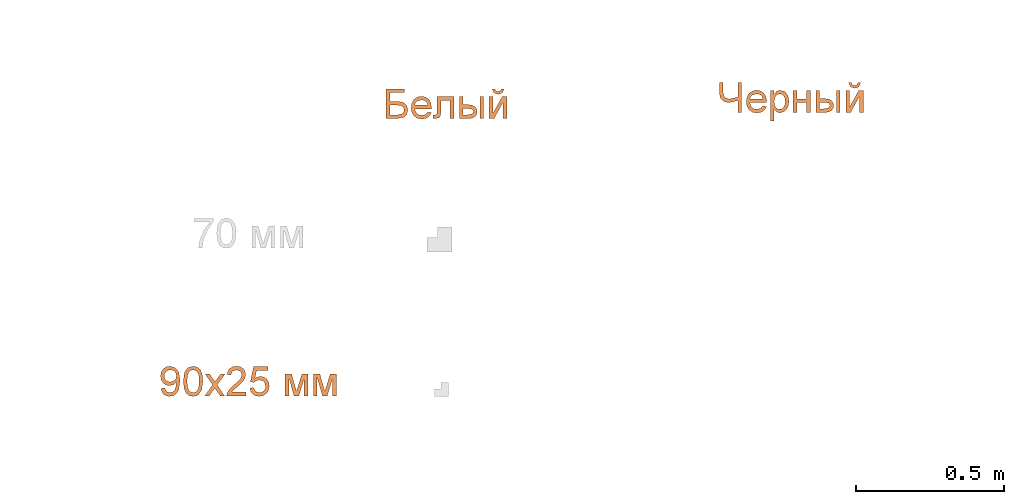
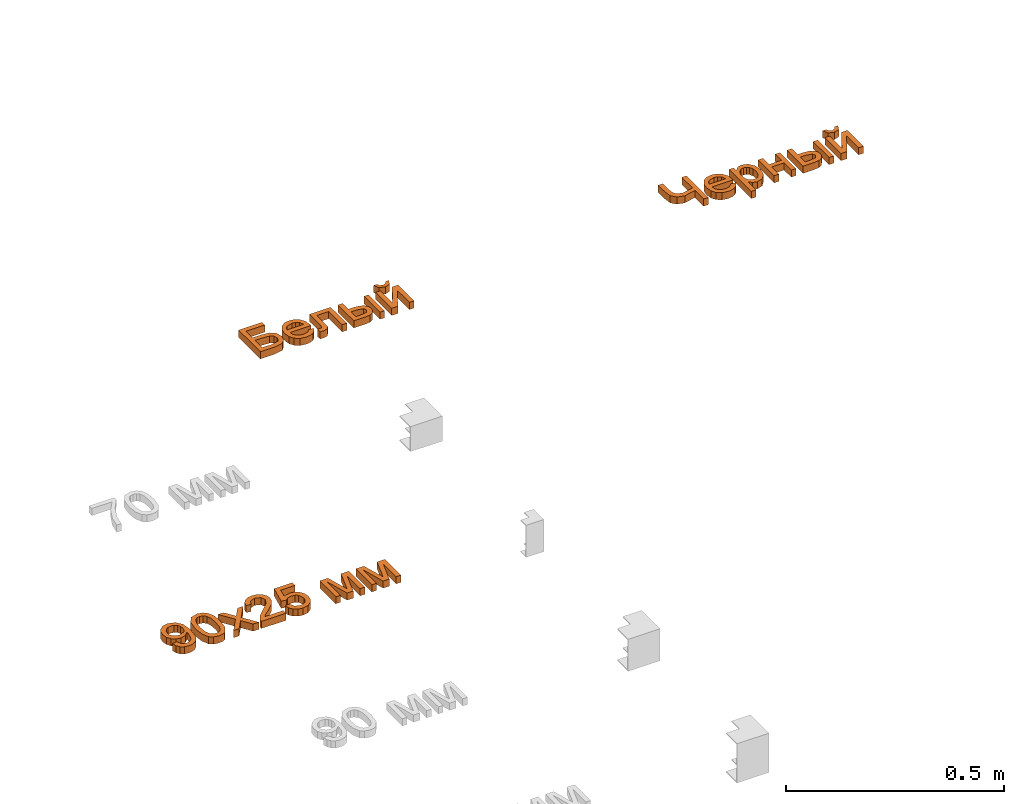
# One storey, part 41 of 87: 3 proxies.
"""IFC2X3 building model written with IfcOpenShell, lengths in millimetres."""

from ifc_helpers import new_model, entity, si_unit, converted_unit, derived_unit, direction, frame, frame_2d, origin, place, context, subcontext, project, spatial, polyline, rectangle, outline, extrude, element, save


model = new_model("IFC2X3")

# Units and contexts
model_context = context("Model", 3, precision=0.01, world=origin(), true_north=direction((6.12303176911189e-17, 1.0)))
body_context = subcontext(model_context, "Body", "Model", "MODEL_VIEW")
ifc_project = project(units=[si_unit("LENGTHUNIT", "METRE", prefix="MILLI"), si_unit("AREAUNIT", "SQUARE_METRE"), si_unit("VOLUMEUNIT", "CUBIC_METRE"), converted_unit("PLANEANGLEUNIT", "DEGREE", entity("IfcRatioMeasure", 0.0174532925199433), si_unit("PLANEANGLEUNIT", "RADIAN"), dimensions=[0, 0, 0, 0, 0, 0, 0]), si_unit("MASSUNIT", "GRAM", prefix="KILO"), derived_unit("MASSDENSITYUNIT", [(si_unit("MASSUNIT", "GRAM", prefix="KILO"), 1), (si_unit("LENGTHUNIT", "METRE"), -3)]), si_unit("TIMEUNIT", "SECOND"), si_unit("FREQUENCYUNIT", "HERTZ"), si_unit("THERMODYNAMICTEMPERATUREUNIT", "DEGREE_CELSIUS"), derived_unit("THERMALTRANSMITTANCEUNIT", [(si_unit("MASSUNIT", "GRAM", prefix="KILO"), 1), (si_unit("THERMODYNAMICTEMPERATUREUNIT", "KELVIN"), -1), (si_unit("TIMEUNIT", "SECOND"), -3)]), derived_unit("VOLUMETRICFLOWRATEUNIT", [(si_unit("LENGTHUNIT", "METRE"), 3), (si_unit("TIMEUNIT", "SECOND"), -1)]), si_unit("ELECTRICCURRENTUNIT", "AMPERE"), si_unit("ELECTRICVOLTAGEUNIT", "VOLT"), si_unit("POWERUNIT", "WATT"), si_unit("FORCEUNIT", "NEWTON", prefix="KILO"), si_unit("ILLUMINANCEUNIT", "LUX"), si_unit("LUMINOUSFLUXUNIT", "LUMEN"), si_unit("LUMINOUSINTENSITYUNIT", "CANDELA"), derived_unit("USERDEFINED", [(si_unit("MASSUNIT", "GRAM", prefix="KILO"), -1), (si_unit("LENGTHUNIT", "METRE"), -2), (si_unit("TIMEUNIT", "SECOND"), 3), (si_unit("LUMINOUSFLUXUNIT", "LUMEN"), 1)]), derived_unit("LINEARVELOCITYUNIT", [(si_unit("LENGTHUNIT", "METRE"), 1), (si_unit("TIMEUNIT", "SECOND"), -1)]), si_unit("PRESSUREUNIT", "PASCAL"), derived_unit("USERDEFINED", [(si_unit("LENGTHUNIT", "METRE"), -2), (si_unit("MASSUNIT", "GRAM", prefix="KILO"), 1), (si_unit("TIMEUNIT", "SECOND"), -2)])], contexts=[model_context])

# Site, building, storey
site_placement = place(None, origin())
site = spatial("IfcSite", under=ifc_project, at=site_placement, Name="Default", CompositionType="ELEMENT")
building_placement = place(site_placement, origin())
building = spatial("IfcBuilding", under=site, at=building_placement, Name="Наименование здания", CompositionType="ELEMENT")
storey_placement = place(building_placement, origin())
storey = spatial("IfcBuildingStorey", under=building, at=storey_placement, Name="Этаж 01", CompositionType="ELEMENT", Elevation=0.0)

# Proxies
proxy_1_placement = place(storey_placement, origin())
element("IfcBuildingElementProxy", 1, at=proxy_1_placement, inside=storey, Name="Текст модели:100 мм Arial", ObjectType="Текст модели:100 мм Arial", context=body_context, shape_type="SweptSolid", body=[
    extrude(outline(polyline([(5.58296908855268, -31.7859506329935), (17.2387167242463, -31.7859506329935), (26.9216142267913, -28.1739915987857), (34.2072820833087, -21.2554963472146), (38.6713407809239, -11.3358876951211), (39.9245387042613, -0.903731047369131), (37.9450282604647, 8.926618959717), (32.7793953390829, 17.819024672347), (24.4742258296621, 25.4373484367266), (-3.90517077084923, 37.3659164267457), (-32.1440557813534, 40.5619140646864), (-49.7769073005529, 32.5319597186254), (-59.4683269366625, 16.6032994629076), (-60.4499889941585, 4.02951589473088), (-56.4016296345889, -7.53444362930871), (-47.8362588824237, -16.8026666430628), (-35.266886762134, -22.4892406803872), (-21.9841856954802, -23.822277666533), (-10.3310965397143, -20.2832716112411), (-1.4010632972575, -12.804799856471), (3.71247002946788, -2.31943974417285), (3.73902096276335, 11.9281903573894), (-2.85997612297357, 24.0883984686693), (-0.471643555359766, 23.5260231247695), (13.133413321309, 18.0099957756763), (22.6158894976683, 11.2224941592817), (27.0079821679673, 2.9145290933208), (26.6924060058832, -7.52395807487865), (20.3410079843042, -16.8945474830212), (7.30988926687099, -19.2495752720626), (5.58296908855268, -31.7859506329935)]), holes=[polyline([(-21.7672208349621, 29.1433710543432), (-13.9803799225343, 25.5922442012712), (-8.91107638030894, 19.8291378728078), (-7.47464573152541, 4.45415101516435), (-10.9717321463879, -3.43916536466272), (-16.5473789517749, -8.73312215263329), (-23.5758136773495, -11.1761402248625), (-31.4312638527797, -10.5166404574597), (-39.4119601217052, -6.85973803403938), (-44.9206699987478, -0.817312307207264), (-47.5297596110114, 6.83624740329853), (-46.8115950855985, 15.3265517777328), (-43.3781823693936, 22.7799280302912), (-37.7148363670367, 27.7965691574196), (-30.338776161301, 30.032406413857), (-21.7672208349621, 29.1433710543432)])]), frame((12120.666226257, -9484.31998894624, 0.0), z_axis=(0.0, 0.0, 1.0), x_axis=(0.258284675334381, -0.966068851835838, 0.0)), (0.0, 0.0, 1.0), 20.0),
    extrude(outline(polyline([(-7.02884310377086, -33.3490673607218), (17.5323805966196, -33.3490673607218), (35.1984171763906, -27.6137612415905), (43.343984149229, -18.4876517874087), (47.0516941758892, -5.75150665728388), (46.7162020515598, 4.48638208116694), (43.4465778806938, 13.0955287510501), (27.944430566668, 25.665911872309), (-0.314338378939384, 32.2325535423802), (-24.0296505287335, 32.3678288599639), (-39.414302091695, 28.0260881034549), (-49.7293680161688, 18.9002174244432), (-54.4436715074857, 4.6399887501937), (-50.8676582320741, -14.1301059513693), (-35.405854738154, -26.7333390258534), (-7.02884310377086, -33.3490673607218)]), holes=[polyline([(-5.77428774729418, -20.8548320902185), (-25.0157644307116, -17.3562860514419), (-36.7257089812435, -11.5717922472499), (-41.0962588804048, -4.77599682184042), (-41.9669219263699, 3.21464792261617), (-39.2244253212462, 11.2791292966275), (-32.8654063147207, 17.2229259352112), (-20.9698370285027, 20.2947501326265), (-1.61768958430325, 19.7433141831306), (17.8514140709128, 16.2707701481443), (28.7803640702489, 10.714159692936), (33.5546988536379, 3.61815959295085), (34.5599568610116, -4.4725533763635), (31.9421230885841, -12.1923199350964), (25.8471825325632, -18.1754808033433), (14.025067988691, -21.402747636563), (-5.77428774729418, -20.8548320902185)])]), frame((12200.6345749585, -9477.21424601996, 0.0), z_axis=(0.0, 0.0, 1.0), x_axis=(0.1018515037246, -0.994799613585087, 0.0)), (0.0, 0.0, 1.0), 20.0),
    extrude(outline(polyline([(-34.530221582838, -38.4265006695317), (-19.422534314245, -38.4265006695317), (-0.341721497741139, -12.0616243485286), (2.47870713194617, -16.1328517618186), (17.8561745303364, -38.4265006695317), (32.9638617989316, -38.4265006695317), (7.40832586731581, -1.34399555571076), (33.944880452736, 35.3461020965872), (18.8371931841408, 35.3461020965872), (4.95577923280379, 16.1671874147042), (0.0261604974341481, 9.34910777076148), (-5.66374769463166, 17.6877663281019), (-17.8529044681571, 35.3461020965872), (-32.9605917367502, 35.3461020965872), (-7.6993614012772, -1.34399555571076), (-34.530221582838, -38.4265006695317)])), frame((12273.476231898, -9484.61092229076, 0.0)), (0.0, 0.0, 1.0), 20.0),
    extrude(outline(polyline([(-32.3858783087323, -45.1669477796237), (-32.3858783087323, -57.7239865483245), (33.5385752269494, -57.7239865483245), (32.1896745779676, -49.0664969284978), (24.5622545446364, -35.7369059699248), (8.84143061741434, -21.1810416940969), (-12.8390816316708, -0.260818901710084), (-18.2592096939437, 13.9639515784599), (-13.1456499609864, 25.4786580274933), (0.208466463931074, 30.1752848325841), (14.1266686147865, 25.5890226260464), (19.4119066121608, 12.9093565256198), (31.9689453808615, 14.4789863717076), (28.9247218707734, 26.6252235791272), (22.3426998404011, 35.4973110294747), (12.5662358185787, 40.9235704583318), (-0.0613136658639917, 42.7323236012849), (-12.7808336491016, 40.721235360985), (-22.5389035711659, 34.6879706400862), (-28.7469122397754, 25.6748617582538), (-30.8162484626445, 14.7242410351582), (-28.5844310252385, 2.81712712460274), (-21.1654774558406, -9.49465698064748), (-3.17604789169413, -26.6992716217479), (11.2694517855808, -38.7780637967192), (16.9348345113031, -45.1669477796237), (-32.3858783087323, -45.1669477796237)])), frame((12346.2571883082, -9465.31343641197, 0.0), z_axis=(0.0, 0.0, -1.0), x_axis=(-1.0, 0.0, 0.0)), (0.0, 0.0, -1.0), 20.0),
    extrude(outline(polyline([(3.81439562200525, -37.2548959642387), (15.732394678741, -37.2548959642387), (26.1588137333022, -33.0579698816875), (34.2921694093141, -25.0537205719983), (39.3309783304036, -13.6317508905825), (40.2219288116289, 1.43409098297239), (34.3991305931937, 14.6815107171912), (25.5350217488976, 23.1481891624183), (13.9054384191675, 28.2770976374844), (0.912111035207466, 29.4702838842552), (-10.7159258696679, 25.7768606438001), (-19.7427074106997, 18.0989984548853), (-24.9322687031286, 7.33886785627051), (-25.5937300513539, -2.21124798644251), (-22.6370240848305, -12.2793380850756), (-47.9924930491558, 0.0204883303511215), (-38.0977082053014, 37.232406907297), (-50.2330599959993, 40.4592412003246), (-62.7370428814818, -6.5652469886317), (-15.5021967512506, -30.4943712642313), (-10.7584434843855, -18.7623737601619), (-14.4216298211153, -10.4922324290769), (-13.6981616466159, 0.722667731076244), (-9.98738154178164, 9.35727561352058), (-4.32553373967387, 14.6878856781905), (11.4370636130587, 15.9400687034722), (19.7481682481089, 12.2772427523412), (25.4355726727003, 6.40632241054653), (28.0665145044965, -1.27212018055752), (27.208231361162, -10.3575128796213), (19.6530635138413, -21.9256319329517), (5.52431094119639, -24.7161898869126), (3.81439562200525, -37.2548959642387)])), frame((12426.2237167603, -9483.09386891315, 0.0), z_axis=(0.0, 0.0, 1.0), x_axis=(0.256974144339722, -0.966418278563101, 0.0)), (0.0, 0.0, 1.0), 20.0),
    extrude(outline(polyline([(-40.5839870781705, -38.4502715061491), (33.1886156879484, -38.4502715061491), (33.1886156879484, -25.8932327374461), (-29.0570178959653, -25.8932327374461), (33.1886156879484, -8.62730443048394), (33.1886156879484, 7.8538089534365), (-26.2120637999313, 25.9045521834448), (33.1886156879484, 25.9045521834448), (33.1886156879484, 38.4615909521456), (-40.5839870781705, 38.4615909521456), (-40.5839870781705, 17.7620973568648), (18.4733358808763, -0.19054400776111), (-40.5839870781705, -16.8433356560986), (-40.5839870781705, -38.4502715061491)])), frame((12548.9422451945, -9489.84880727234, 0.0), z_axis=(0.0, 0.0, 1.0), x_axis=(0.0, -1.0, 0.0)), (0.0, 0.0, 1.0), 20.0),
    extrude(outline(polyline([(-40.5839870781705, -38.4502715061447), (33.1886156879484, -38.4502715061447), (33.1886156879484, -25.893232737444), (-29.0570178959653, -25.893232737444), (33.1886156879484, -8.6273044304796), (33.1886156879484, 7.85380895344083), (-26.2120637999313, 25.9045521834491), (33.1886156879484, 25.9045521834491), (33.1886156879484, 38.4615909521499), (-40.5839870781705, 38.4615909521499), (-40.5839870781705, 17.7620973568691), (18.4733358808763, -0.190544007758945), (-40.5839870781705, -16.8433356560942), (-40.5839870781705, -38.4502715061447)])), frame((12644.6896658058, -9489.84880727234, 0.0), z_axis=(0.0, 0.0, 1.0), x_axis=(0.0, -1.0, 0.0)), (0.0, 0.0, 1.0), 20.0),
])
proxy_2_placement = place(storey_placement, origin())
element("IfcBuildingElementProxy", 2, at=proxy_2_placement, inside=storey, Name="Текст модели:100 мм Arial", ObjectType="Текст модели:100 мм Arial", context=body_context, shape_type="SweptSolid", body=[
    extrude(outline(polyline([(-50.9950475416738, -42.7620371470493), (49.4612626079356, -42.7620371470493), (49.4612626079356, -4.42873324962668), (45.2428823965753, 17.8649156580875), (34.3658380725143, 27.7118903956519), (20.0552284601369, 31.0105656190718), (3.57411507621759, 26.3752524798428), (-6.06439319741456, 14.0389429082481), (-8.61504169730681, -6.68507615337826), (-8.61504169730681, -30.2049983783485), (-38.438008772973, -30.2049983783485), (-38.438008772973, 20.0231566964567), (-50.9950475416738, 20.0231566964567), (-50.9950475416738, -42.7620371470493)]), holes=[polyline([(36.9042238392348, -30.2049983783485), (3.94199707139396, -30.2049983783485), (3.94199707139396, -12.2523570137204), (5.24184678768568, 6.66904027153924), (10.4902965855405, 15.3387926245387), (20.3250085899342, 18.4535268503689), (27.5784152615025, 17.0923634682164), (32.7594200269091, 13.0088733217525), (36.9042238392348, -3.30056179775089), (36.9042238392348, -30.2049983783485)])]), frame((12893.8285451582, -8537.16616428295, 0.0), z_axis=(0.0, 0.0, 1.0), x_axis=(0.0, -1.0, 0.0)), (0.0, 0.0, 1.0), 20.0),
    extrude(outline(polyline([(-8.10128238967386, -20.3751729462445), (-15.5352214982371, -30.3140016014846), (-5.78400372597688, -33.5775071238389), (4.12185089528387, -33.3132173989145), (13.8776168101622, -29.4480778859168), (23.178568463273, -21.9090340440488), (31.6380426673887, -9.59237957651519), (34.1620486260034, 3.74135328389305), (30.6040508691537, 17.2442201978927), (20.8175139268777, 30.0682768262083), (7.27698270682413, 39.7846728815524), (-6.66179525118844, 43.1117813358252), (-19.9642596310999, 40.4221234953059), (-31.5958501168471, 32.0882206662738), (-39.2435519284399, 20.5090048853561), (-41.3106827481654, 7.34319797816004), (-37.4373707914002, -6.34962495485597), (-27.2637442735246, -19.509888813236), (-24.7804584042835, -21.8106804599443), (14.4643272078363, 18.7422646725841), (19.7071986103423, 10.643799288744), (21.1614672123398, 2.21005051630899), (19.1472085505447, -5.98136753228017), (13.9844981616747, -13.3528407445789), (3.53684605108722, -20.3751729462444), (-8.10128238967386, -20.3751729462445)]), holes=[polyline([(5.44081225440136, 27.4746984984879), (-25.1227061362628, -4.10760383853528), (-29.8038819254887, 7.41909510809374), (-27.8851342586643, 15.7498710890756), (-22.5382240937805, 23.391034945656), (-8.40970331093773, 31.2368652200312), (-1.08072680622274, 30.91472880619), (5.44081225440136, 27.4746984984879)])]), frame((12971.9105930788, -8556.30487606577, 0.0), z_axis=(0.0, 0.0, -1.0), x_axis=(-0.695421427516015, -0.71860214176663, 0.0)), (0.0, 0.0, -1.0), 20.0),
    extrude(outline(polyline([(-49.3689973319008, 12.544776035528), (-49.3689973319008, -43.9618984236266), (24.3300290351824, -43.9618984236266), (24.3300290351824, -31.4048596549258), (-36.8119585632, -31.4048596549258), (-36.8119585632, -0.0122627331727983), (-1.61791435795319, -0.0122627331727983), (14.6179443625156, 0.833865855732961), (21.4728122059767, 5.48144172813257), (24.4036054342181, 16.4688506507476), (23.7659433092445, 26.6714446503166), (11.8465666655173, 26.6714446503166), (11.8465666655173, 21.0551128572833), (11.0740144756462, 15.3774673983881), (8.62146784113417, 13.1088617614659), (-2.3291528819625, 12.544776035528), (-49.3689973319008, 12.544776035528)])), frame((13036.2705671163, -8562.22382145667, 0.0), z_axis=(0.0, 0.0, -1.0), x_axis=(0.0, -1.0, 0.0)), (0.0, 0.0, -1.0), 20.0),
    extrude(outline(polyline([(-42.3988715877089, -34.5139341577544), (31.37373117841, -34.5139341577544), (31.37373117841, -3.73447389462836), (29.653882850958, 9.31613988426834), (24.4943378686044, 18.2526066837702), (16.9129030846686, 23.4121516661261), (7.92738535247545, 25.1319999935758), (-1.9410491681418, 23.081057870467), (-9.42438208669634, 16.928231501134), (-14.142468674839, 6.98622058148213), (-15.7151642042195, -6.43227519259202), (-15.7151642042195, -21.9568953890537), (-42.3988715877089, -21.9568953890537), (-42.3988715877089, -34.5139341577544)]), holes=[polyline([(18.8166924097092, -21.9568953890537), (-3.15812543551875, -21.9568953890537), (-3.15812543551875, -7.41329384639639), (0.226388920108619, 8.88387853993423), (7.95191081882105, 12.5749612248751), (16.1802047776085, 7.5962915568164), (18.8166924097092, -9.05650009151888), (18.8166924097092, -21.9568953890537)])]), frame((13133.5819578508, -8555.25369571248, 0.0), z_axis=(0.0, 0.0, 1.0), x_axis=(0.0, -1.0, 0.0)), (0.0, 0.0, 1.0), 20.0),
    extrude(outline(polyline([(-11.1429830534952, -6.65049913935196), (-15.3141401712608, -15.0941956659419), (-0.0922190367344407, -15.8161107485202), (10.2631635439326, -5.84547547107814), (12.4162171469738, 9.42172447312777), (2.76087400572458, 21.4951559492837), (-1.41028311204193, 13.0514594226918), (3.36929976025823, 6.75127419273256), (2.3191368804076, -0.662833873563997), (-3.16906596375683, -6.65049913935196), (-11.1429830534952, -6.65049913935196)])), frame((13229.4368188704, -8493.21605694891, 0.0), z_axis=(0.0, 0.0, -1.0), x_axis=(-0.442902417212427, -0.896569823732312, 0.0)), (0.0, 0.0, -1.0), 20.0),
    extrude(outline(polyline([(-36.9206370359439, -29.8425874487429), (36.851965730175, -29.8425874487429), (36.851965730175, -13.4105249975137), (-19.0660975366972, 17.2463079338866), (36.851965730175, 17.2463079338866), (36.851965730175, 29.8033467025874), (-36.9206370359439, 29.8033467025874), (-36.9206370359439, 13.5674879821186), (19.34078275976, -17.2855486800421), (-36.9206370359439, -17.2855486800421), (-36.9206370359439, -29.8425874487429)])), frame((13229.3669212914, -8549.77546116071, 0.0), z_axis=(0.0, 0.0, 1.0), x_axis=(0.0, -1.0, 0.0)), (0.0, 0.0, 1.0), 20.0),
    extrude(rectangle(XDim=73.7726027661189, YDim=12.5570387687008, at=frame_2d((0.0, 1.08268949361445e-12), x_axis=(1.0, 0.0))), frame((13174.4102563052, -8549.74112550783, 0.0), z_axis=(0.0, 0.0, 1.0), x_axis=(0.0, -1.0, 0.0)), (0.0, 0.0, 1.0), 20.0),
])
proxy_3_placement = place(storey_placement, origin())
element("IfcBuildingElementProxy", 3, at=proxy_3_placement, inside=storey, Name="Текст модели:100 мм Arial", ObjectType="Текст модели:100 мм Arial", context=body_context, shape_type="SweptSolid", body=[
    extrude(outline(polyline([(-57.0521744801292, -41.5683661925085), (43.4041356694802, -41.5683661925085), (43.4041356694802, -29.0113274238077), (-5.30344049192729, -29.0113274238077), (-11.5329089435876, 0.689012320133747), (-6.37029827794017, 15.1835629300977), (1.59741260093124, 19.7085114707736), (15.1753239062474, 21.2168276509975), (43.4041356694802, 21.2168276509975), (43.4041356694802, 33.7738664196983), (13.4830667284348, 33.7738664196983), (-6.5174510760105, 31.0883278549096), (-19.1235407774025, 20.4442754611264), (-24.0899477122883, 2.0869639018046), (-16.8304096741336, -29.0113274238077), (-57.0521744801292, -29.0113274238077), (-57.0521744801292, -41.5683661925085)])), frame((14010.0647556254, -8509.07720350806, 0.0), z_axis=(0.0, 0.0, 1.0), x_axis=(0.0, 1.0, 0.0)), (0.0, 0.0, 1.0), 20.0),
    extrude(outline(polyline([(-8.10128238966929, -20.3751729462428), (-15.5352214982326, -30.3140016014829), (-5.78400372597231, -33.5775071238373), (4.12185089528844, -33.3132173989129), (13.8776168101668, -29.4480778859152), (23.1785684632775, -21.9090340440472), (31.6380426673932, -9.59237957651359), (34.1620486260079, 3.74135328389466), (30.6040508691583, 17.2442201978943), (20.8175139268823, 30.0682768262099), (7.2769827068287, 39.784672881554), (-6.66179525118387, 43.1117813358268), (-19.9642596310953, 40.4221234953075), (-31.5958501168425, 32.0882206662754), (-39.2435519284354, 20.5090048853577), (-41.3106827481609, 7.34319797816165), (-37.4373707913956, -6.34962495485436), (-27.2637442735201, -19.5098888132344), (-24.780458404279, -21.8106804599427), (14.4643272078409, 18.7422646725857), (19.7071986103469, 10.6437992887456), (21.1614672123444, 2.2100505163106), (19.1472085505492, -5.98136753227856), (13.9844981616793, -13.3528407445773), (3.53684605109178, -20.3751729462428), (-8.10128238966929, -20.3751729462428)]), holes=[polyline([(5.44081225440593, 27.4746984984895), (-25.1227061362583, -4.10760383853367), (-29.8038819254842, 7.41909510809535), (-27.8851342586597, 15.7498710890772), (-22.5382240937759, 23.3910349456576), (-8.40970331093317, 31.2368652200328), (-1.08072680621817, 30.9147288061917), (5.44081225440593, 27.4746984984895)])]), frame((14103.4134936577, -8535.80682716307, 0.0), z_axis=(0.0, 0.0, -1.0), x_axis=(-0.695421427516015, -0.71860214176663, 0.0)), (0.0, 0.0, -1.0), 20.0),
    extrude(outline(polyline([(-28.8983569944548, -61.2335493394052), (-16.3413182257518, -61.2335493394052), (-16.3413182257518, -23.1700255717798), (-8.38280439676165, -31.3247431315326), (2.54329085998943, -34.5498419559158), (18.4235303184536, -29.7305878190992), (29.9259740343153, -15.8736993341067), (33.8868368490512, 4.47017499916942), (30.3796951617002, 23.8207679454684), (19.9808974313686, 37.5059781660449), (4.0638697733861, 42.3620205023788), (-7.65930313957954, 38.8916670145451), (-16.3413182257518, 28.4806065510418), (-16.3413182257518, 40.792390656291), (-28.8983569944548, 40.792390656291), (-28.8983569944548, -61.2335493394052)]), holes=[polyline([(-16.3413182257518, 3.31747808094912), (-14.8912500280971, 14.7064915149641), (-10.541045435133, 23.0236902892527), (-4.30851130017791, 28.1096588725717), (2.78854552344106, 29.8049817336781), (9.85801119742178, 28.2108264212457), (15.8606190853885, 23.4283604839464), (19.9625033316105, 15.4453211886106), (21.3297980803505, 4.24944580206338), (19.928780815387, -7.43080754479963), (15.7257290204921, -15.5916564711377), (9.56063991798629, -20.3925165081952), (2.2735107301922, -21.9928031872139), (-4.8971224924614, -20.4476988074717), (-10.9089274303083, -15.8123856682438), (-14.983220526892, -7.93971097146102), (-16.3413182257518, 3.31747808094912)])]), frame((14177.8485292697, -8533.14916587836, 0.0)), (0.0, 0.0, 1.0), 20.0),
    extrude(outline(polyline([(-36.1014864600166, -29.0381521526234), (37.6711163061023, -29.0381521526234), (37.6711163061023, -16.4811133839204), (4.70888953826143, -16.4811133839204), (4.70888953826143, 16.4811133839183), (37.6711163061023, 16.4811133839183), (37.6711163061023, 29.0381521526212), (-36.1014864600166, 29.0381521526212), (-36.1014864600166, 16.4811133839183), (-7.84814923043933, 16.4811133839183), (-7.84814923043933, -16.4811133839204), (-36.1014864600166, -16.4811133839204), (-36.1014864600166, -29.0381521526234)])), frame((14254.9001868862, -8528.45826168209, 0.0), z_axis=(0.0, 0.0, 1.0), x_axis=(0.0, -1.0, 0.0)), (0.0, 0.0, 1.0), 20.0),
    extrude(outline(polyline([(-42.39887158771, -34.5139341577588), (31.3737311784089, -34.5139341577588), (31.3737311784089, -3.73447389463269), (29.653882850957, 9.316139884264), (24.4943378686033, 18.2526066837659), (16.9129030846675, 23.4121516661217), (7.92738535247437, 25.1319999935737), (-1.94104916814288, 23.0810578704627), (-9.42438208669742, 16.9282315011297), (-14.1424686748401, 6.9862205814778), (-15.7151642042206, -6.43227519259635), (-15.7151642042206, -21.9568953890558), (-42.39887158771, -21.9568953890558), (-42.39887158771, -34.5139341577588)]), holes=[polyline([(18.8166924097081, -21.9568953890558), (-3.15812543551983, -21.9568953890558), (-3.15812543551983, -7.41329384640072), (0.226388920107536, 8.88387853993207), (7.95191081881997, 12.5749612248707), (16.1802047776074, 7.59629155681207), (18.8166924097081, -9.05650009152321), (18.8166924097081, -21.9568953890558)])]), frame((14337.2878313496, -8534.75564680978, 0.0), z_axis=(0.0, 0.0, 1.0), x_axis=(0.0, -1.0, 0.0)), (0.0, 0.0, 1.0), 20.0),
    extrude(outline(polyline([(-11.1429830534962, -6.65049913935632), (-15.3141401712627, -15.0941956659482), (-0.0922190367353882, -15.8161107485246), (10.2631635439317, -5.8454754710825), (12.4162171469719, 9.42172447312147), (2.76087400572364, 21.4951559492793), (-1.41028311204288, 13.0514594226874), (3.36929976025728, 6.7512741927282), (2.31913688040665, -0.66283387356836), (-3.16906596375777, -6.65049913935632), (-11.1429830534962, -6.65049913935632)])), frame((14433.1426923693, -8472.71800804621, 0.0), z_axis=(0.0, 0.0, -1.0), x_axis=(-0.442902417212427, -0.896569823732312, 0.0)), (0.0, 0.0, -1.0), 20.0),
    extrude(outline(polyline([(-36.9206370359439, -29.8425874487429), (36.851965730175, -29.8425874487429), (36.851965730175, -13.4105249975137), (-19.0660975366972, 17.2463079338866), (36.851965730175, 17.2463079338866), (36.851965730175, 29.8033467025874), (-36.9206370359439, 29.8033467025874), (-36.9206370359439, 13.5674879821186), (19.34078275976, -17.2855486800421), (-36.9206370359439, -17.2855486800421), (-36.9206370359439, -29.8425874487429)])), frame((14433.0727947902, -8529.27741225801, 0.0), z_axis=(0.0, 0.0, 1.0), x_axis=(0.0, -1.0, 0.0)), (0.0, 0.0, 1.0), 20.0),
    extrude(rectangle(XDim=73.7726027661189, YDim=12.5570387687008, at=frame_2d((0.0, 1.08268949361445e-12), x_axis=(1.0, 0.0))), frame((14378.1161298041, -8529.24307660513, 0.0), z_axis=(0.0, 0.0, 1.0), x_axis=(0.0, -1.0, 0.0)), (0.0, 0.0, 1.0), 20.0),
])

save(model, "model.ifc")
